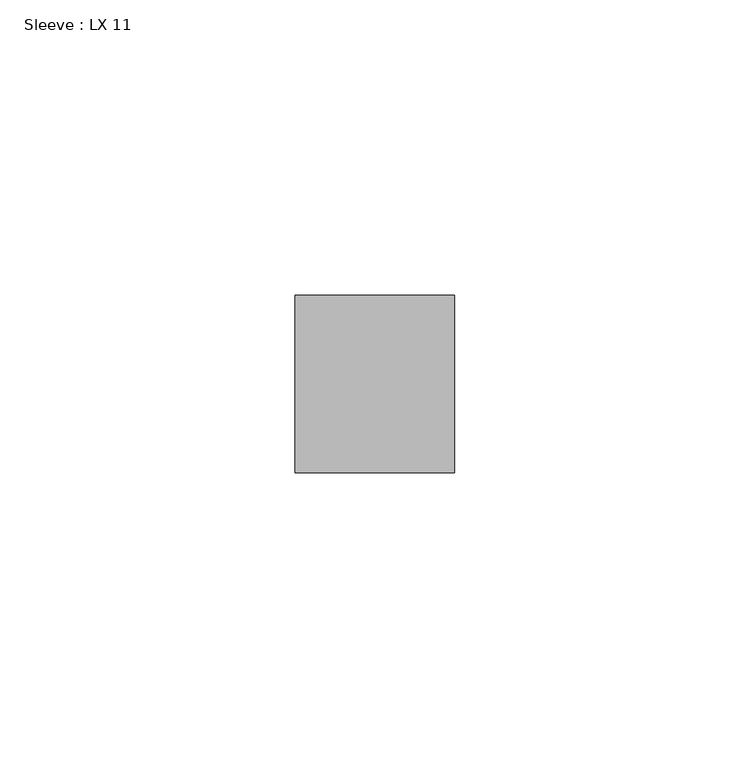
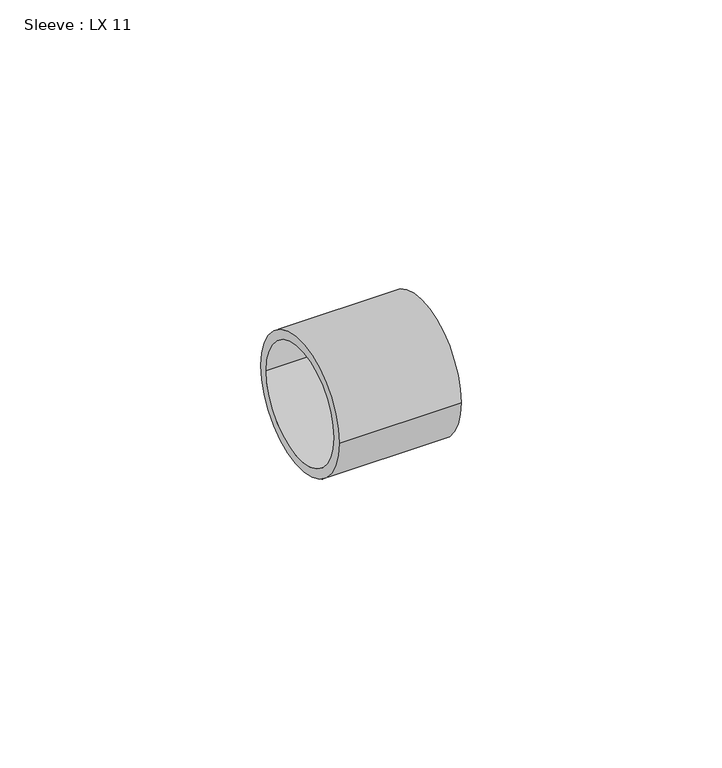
"""IFC4 building model written with IfcOpenShell, lengths in millimetres: pipe fitting geometry, Sleeve : LX 11."""

import ifcopenshell
import ifcopenshell.guid

model = None  # the IFC model being written
_history = None  # IfcOwnerHistory: only IFC2X3 demands one
_inside = {}  # id of a spatial element -> (the spatial element, [elements in it])
_under = {}  # id of a project, library or spatial element -> (it, [spatial elements below it])
_declared = {}  # id of a project -> (the project, [libraries it declares])
_typed = {}  # id of a type object -> (the type object, [elements of that type])
_made_of = {}  # id of a material, layer set ... -> (it, [elements and type objects made of it])


def new_model(schema):
    """Start an empty IFC model of exactly this schema.

    Asked for "IFC4X3", IfcOpenShell would pick the latest addendum, in which some entities
    have other attributes; the version numbers below select the first issue.
    IFC2X3 requires an IfcOwnerHistory on every rooted entity: one is made here for all.
    """
    global model, _history
    if schema == "IFC4X3":
        model = ifcopenshell.file(schema_version=(4, 3, 0, 0))
    else:
        model = ifcopenshell.file(schema=schema)
    _inside.clear()
    _under.clear()
    _declared.clear()
    _typed.clear()
    _made_of.clear()
    _history = None
    if model.schema == "IFC2X3":
        org = make("IfcOrganization", Name="unknown")
        user = make(
            "IfcPersonAndOrganization",
            ThePerson=make("IfcPerson", FamilyName="unknown"),
            TheOrganization=org,
        )
        app = make(
            "IfcApplication",
            ApplicationDeveloper=org,
            Version="unknown",
            ApplicationFullName="unknown",
            ApplicationIdentifier="unknown",
        )
        _history = make(
            "IfcOwnerHistory",
            OwningUser=user,
            OwningApplication=app,
            ChangeAction="ADDED",
            CreationDate=0,
        )
    return model


def make(cls, **values):
    """One entity of the class cls with the attributes given. An attribute that is None is left unset."""
    return model.create_entity(
        cls, **{name: value for name, value in values.items() if value is not None}
    )


def rooted(cls, **values):
    """An entity with a GlobalId (a new one), such as an element, a storey or a relation."""
    return make(cls, GlobalId=ifcopenshell.guid.new(), OwnerHistory=_history, **values)


def si_unit(unit_type, name, prefix=None):
    """IfcSIUnit, for example si_unit("LENGTHUNIT", "METRE", prefix="MILLI")."""
    return make("IfcSIUnit", UnitType=unit_type, Prefix=prefix, Name=name)


def assignment(units):
    """IfcUnitAssignment: the units of a project."""
    return None if units is None else make("IfcUnitAssignment", Units=units)


def point(xyz):
    """IfcCartesianPoint."""
    return None if xyz is None else make("IfcCartesianPoint", Coordinates=xyz)


def direction(xyz):
    """IfcDirection."""
    return None if xyz is None else make("IfcDirection", DirectionRatios=xyz)


def frame(location, z_axis=None, x_axis=None):
    """IfcAxis2Placement3D, a coordinate frame: its origin and axes. An axis left out is left unset."""
    return make(
        "IfcAxis2Placement3D",
        Location=point(location),
        Axis=direction(z_axis),
        RefDirection=direction(x_axis),
    )


def frame_2d(location, x_axis=None):
    """IfcAxis2Placement2D, a coordinate frame in the plane: its origin and x axis."""
    return make(
        "IfcAxis2Placement2D", Location=point(location), RefDirection=direction(x_axis)
    )


def origin():
    """The frame at (0, 0, 0) with its axes left unset."""
    return frame((0.0, 0.0, 0.0))


def origin_2d():
    """The frame at (0, 0) in the plane with its x axis left unset."""
    return frame_2d((0.0, 0.0))


def place(relative_to, where):
    """IfcLocalPlacement: puts the frame where relative to a parent placement (None: the world)."""
    return make(
        "IfcLocalPlacement", PlacementRelTo=relative_to, RelativePlacement=where
    )


def context(
    kind, dimensions, precision=None, world=None, true_north=None, identifier=None
):
    """IfcGeometricRepresentationContext, for example the 3D "Model" context."""
    return make(
        "IfcGeometricRepresentationContext",
        ContextIdentifier=identifier,
        ContextType=kind,
        CoordinateSpaceDimension=dimensions,
        Precision=precision,
        WorldCoordinateSystem=world,
        TrueNorth=true_north,
    )


def project(units=None, contexts=None):
    """IfcProject with its units and contexts."""
    return rooted(
        "IfcProject",
        Name="project",
        RepresentationContexts=contexts,
        UnitsInContext=assignment(units),
    )


def spatial(cls, under=None, at=None, **own):
    """A site, building, storey or space (cls), placed at a placement, below another one or the project."""
    s = rooted(cls, ObjectPlacement=at, **own)
    if under is not None:
        _under.setdefault(under.id(), (under, []))[1].append(s)
    return s


def circle_curve(where, radius):
    """IfcCircle in the frame where."""
    return make("IfcCircle", Position=where, Radius=radius)


def trimmed(basis, trim1, trim2, sense, master):
    """IfcTrimmedCurve: the piece of a basis curve between two trims."""
    return make(
        "IfcTrimmedCurve",
        BasisCurve=basis,
        Trim1=trim1,
        Trim2=trim2,
        SenseAgreement=sense,
        MasterRepresentation=master,
    )


def segment(curve, same_sense, transition):
    """IfcCompositeCurveSegment."""
    return make(
        "IfcCompositeCurveSegment",
        Transition=transition,
        SameSense=same_sense,
        ParentCurve=curve,
    )


def composite_curve(segments, self_intersect=None):
    """IfcCompositeCurve: segments joined end to end."""
    return make("IfcCompositeCurve", Segments=segments, SelfIntersect=self_intersect)


def outline(outer, holes=None, kind="AREA"):
    """IfcArbitraryClosedProfileDef: a profile drawn as a closed curve; with holes, ...WithVoids."""
    if holes is None:
        return make("IfcArbitraryClosedProfileDef", ProfileType=kind, OuterCurve=outer)
    return make(
        "IfcArbitraryProfileDefWithVoids",
        ProfileType=kind,
        OuterCurve=outer,
        InnerCurves=holes,
    )


def extrude(swept, where, along, depth):
    """IfcExtrudedAreaSolid: the profile swept, set in the frame where, extruded along a direction by depth."""
    return make(
        "IfcExtrudedAreaSolid",
        SweptArea=swept,
        Position=where,
        ExtrudedDirection=direction(along),
        Depth=depth,
    )


def shape(context_of_items, identifier, shape_type, items):
    """IfcShapeRepresentation: the items that make up one representation, for example the "Body"."""
    return make(
        "IfcShapeRepresentation",
        ContextOfItems=context_of_items,
        RepresentationIdentifier=identifier,
        RepresentationType=shape_type,
        Items=items,
    )


def source(mapping_origin, context_of_items, identifier, shape_type, items):
    """IfcRepresentationMap: a shape defined once, which mapped items show again and again."""
    return make(
        "IfcRepresentationMap",
        MappingOrigin=mapping_origin,
        MappedRepresentation=shape(context_of_items, identifier, shape_type, items),
    )


def transform(
    local_origin,
    x_axis=None,
    y_axis=None,
    z_axis=None,
    scale=None,
    scale2=None,
    scale3=None,
    uniform=True,
):
    """IfcCartesianTransformationOperator3D, or its non-uniform kind. x_axis, y_axis, z_axis: its Axis1, 2, 3."""
    if uniform:
        return make(
            "IfcCartesianTransformationOperator3D",
            Axis1=direction(x_axis),
            Axis2=direction(y_axis),
            LocalOrigin=point(local_origin),
            Scale=scale,
            Axis3=direction(z_axis),
        )
    return make(
        "IfcCartesianTransformationOperator3DnonUniform",
        Axis1=direction(x_axis),
        Axis2=direction(y_axis),
        LocalOrigin=point(local_origin),
        Scale=scale,
        Axis3=direction(z_axis),
        Scale2=scale2,
        Scale3=scale3,
    )


def mapped(mapping_source, mapping_target):
    """IfcMappedItem: shows the shape of a source again, moved by a transform."""
    return make(
        "IfcMappedItem", MappingSource=mapping_source, MappingTarget=mapping_target
    )


def made_of(thing, what):
    """Note that an element or type object is made of a material, layer set ...; save() writes the relation."""
    if what is not None:
        _made_of.setdefault(what.id(), (what, []))[1].append(thing)
    return thing


def element(
    cls,
    number,
    at=None,
    inside=None,
    cuts=None,
    type_object=None,
    material=None,
    context=None,
    identifier="Body",
    shape_type=None,
    held_by="IfcProductDefinitionShape",
    body=None,
    shapes=None,
    **own,
):
    """One element of the class cls, such as IfcWall. Its Tag is "e" and its number.

    at: its placement. inside: the storey or other place that contains it. cuts: it is an
    opening in that element (IfcRelVoidsElement). A single representation is given by context,
    identifier, shape_type and body (its items); several are given by shapes. held_by: the class
    of the entity that holds the representations. save() writes the other relations.
    """
    e = rooted(cls, Tag="e%d" % number, ObjectPlacement=at, **own)
    if body is not None:
        shapes = [shape(context, identifier, shape_type, body)]
    if shapes is not None:
        e.Representation = make(held_by, Representations=shapes)
    if inside is not None:
        _inside.setdefault(inside.id(), (inside, []))[1].append(e)
    if cuts is not None:
        rooted(
            "IfcRelVoidsElement", RelatingBuildingElement=cuts, RelatedOpeningElement=e
        )
    if type_object is not None:
        _typed.setdefault(type_object.id(), (type_object, []))[1].append(e)
    return made_of(e, material)


def aggregate(whole, parts):
    """IfcRelAggregates: a whole, such as a stair, and the parts it consists of."""
    return rooted("IfcRelAggregates", RelatingObject=whole, RelatedObjects=parts)


def save(model, path):
    """Write the relations noted so far, then the file.

    IfcRelAggregates (storeys below a building ...), IfcRelContainedInSpatialStructure (elements
    in a storey), IfcRelDefinesByType, IfcRelAssociatesMaterial and IfcRelDeclares: one each for
    every whole, place, type object, material and project.
    """
    for whole, parts in _under.values():
        aggregate(whole, parts)
    for where, things in _inside.values():
        rooted(
            "IfcRelContainedInSpatialStructure",
            RelatedElements=things,
            RelatingStructure=where,
        )
    for kind, things in _typed.values():
        rooted("IfcRelDefinesByType", RelatedObjects=things, RelatingType=kind)
    for what, things in _made_of.values():
        rooted("IfcRelAssociatesMaterial", RelatedObjects=things, RelatingMaterial=what)
    for by, libraries in _declared.values():
        rooted("IfcRelDeclares", RelatingContext=by, RelatedDefinitions=libraries)
    model.write(path)


def sleeve_lx_11_c8be5d8f(model_context):
    return source(origin(), model_context, "Body", "SweptSolid", [
        extrude(outline(composite_curve([segment(trimmed(circle_curve(origin_2d(), 15.0), [point((15.0, 0.0))], [point((-15.0, 0.0))], False, "CARTESIAN"), True, "CONTINUOUS"), segment(trimmed(circle_curve(origin_2d(), 15.0), [point((-15.0, 0.0))], [point((15.0, 0.0))], False, "CARTESIAN"), True, "CONTINUOUS")], self_intersect=False), holes=[composite_curve([segment(trimmed(circle_curve(origin_2d(), 12.95), [point((12.95, 0.0))], [point((-12.95, 0.0))], True, "CARTESIAN"), True, "CONTINUOUS"), segment(trimmed(circle_curve(origin_2d(), 12.95), [point((-12.95, 0.0))], [point((12.95, 0.0))], True, "CARTESIAN"), True, "CONTINUOUS")], self_intersect=False)]), frame((0.0, 0.0, 0.0), z_axis=(1.0, 0.0, 0.0), x_axis=(0.0, 1.0, 0.0)), (0.0, 0.0, 1.0), 27.0),
    ])


if __name__ == "__main__":
    model = new_model("IFC4")
    model_context = context("Model", 3, world=origin())
    ifc_project = project(units=[si_unit("LENGTHUNIT", "METRE", prefix="MILLI")], contexts=[model_context])
    site = spatial("IfcSite", under=ifc_project)
    building = spatial("IfcBuilding", under=site)
    placement = place(None, origin())
    sleeve_lx_11_shape = sleeve_lx_11_c8be5d8f(model_context)
    element("IfcPipeFitting", 1, ObjectType="Sleeve : LX 11", at=placement, inside=building, context=model_context, shape_type="MappedRepresentation", body=[
        mapped(sleeve_lx_11_shape, transform((0.0, 0.0, 0.0), x_axis=(1.0, 0.0, 0.0), y_axis=(0.0, 1.0, 0.0), z_axis=(0.0, 0.0, 1.0))),
    ])
    save(model, "model.ifc")
